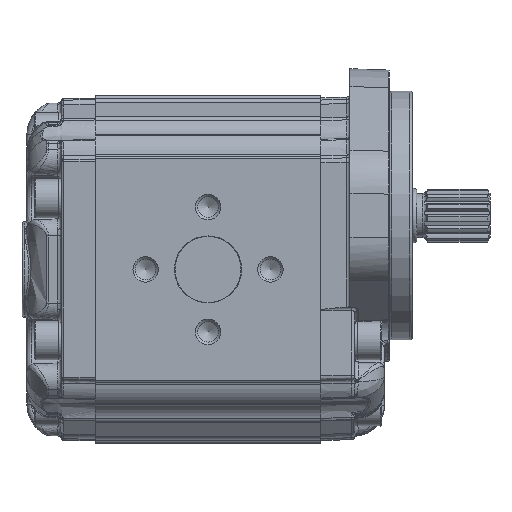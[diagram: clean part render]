
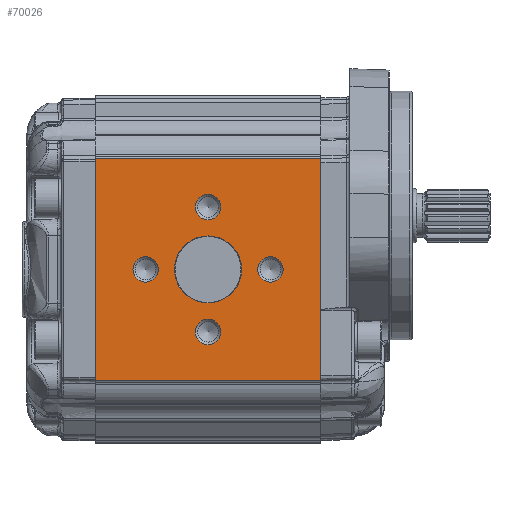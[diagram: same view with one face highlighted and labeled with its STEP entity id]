
A CAD part, left-side view. The second image highlights one B-rep face of the part: STEP entity #70026.
In plain terms, the highlighted planar face has unit normal (-1, 0, 0).
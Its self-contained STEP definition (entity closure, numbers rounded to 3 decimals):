
#8111=LINE('',#122511,#10125);
#8122=LINE('',#122596,#10136);
#8160=LINE('',#122704,#10174);
#8161=LINE('',#122705,#10175);
#10125=VECTOR('',#77587,1000.);
#10136=VECTOR('',#77662,1000.);
#10174=VECTOR('',#77788,1000.);
#10175=VECTOR('',#77789,1000.);
#16517=ORIENTED_EDGE('',*,*,#29320,.T.);
#16518=ORIENTED_EDGE('',*,*,#29321,.T.);
#16519=ORIENTED_EDGE('',*,*,#29322,.T.);
#16520=ORIENTED_EDGE('',*,*,#29323,.T.);
#16521=ORIENTED_EDGE('',*,*,#29324,.T.);
#16522=ORIENTED_EDGE('',*,*,#29224,.F.);
#16523=ORIENTED_EDGE('',*,*,#29325,.T.);
#16524=ORIENTED_EDGE('',*,*,#29266,.F.);
#16525=ORIENTED_EDGE('',*,*,#29326,.T.);
#29224=EDGE_CURVE('',#35950,#35951,#8111,.T.);
#29266=EDGE_CURVE('',#35992,#35993,#8122,.T.);
#29320=EDGE_CURVE('',#36014,#36014,#39819,.F.);
#29321=EDGE_CURVE('',#36015,#36015,#39820,.F.);
#29322=EDGE_CURVE('',#36016,#36016,#39821,.F.);
#29323=EDGE_CURVE('',#36017,#36017,#39822,.F.);
#29324=EDGE_CURVE('',#36018,#36018,#39823,.F.);
#29325=EDGE_CURVE('',#35950,#35993,#8160,.F.);
#29326=EDGE_CURVE('',#35992,#35951,#8161,.F.);
#35950=VERTEX_POINT('',#122510);
#35951=VERTEX_POINT('',#122512);
#35992=VERTEX_POINT('',#122595);
#35993=VERTEX_POINT('',#122597);
#36014=VERTEX_POINT('',#122695);
#36015=VERTEX_POINT('',#122697);
#36016=VERTEX_POINT('',#122699);
#36017=VERTEX_POINT('',#122701);
#36018=VERTEX_POINT('',#122703);
#39819=CIRCLE('',#73296,5.188);
#39820=CIRCLE('',#73297,5.188);
#39821=CIRCLE('',#73298,5.188);
#39822=CIRCLE('',#73299,5.188);
#39823=CIRCLE('',#73300,13.7);
#41146=EDGE_LOOP('',(#16517));
#41147=EDGE_LOOP('',(#16518));
#41148=EDGE_LOOP('',(#16519));
#41149=EDGE_LOOP('',(#16520));
#41150=EDGE_LOOP('',(#16521));
#41151=EDGE_LOOP('',(#16522,#16523,#16524,#16525));
#44492=FACE_BOUND('',#41146,.T.);
#44493=FACE_BOUND('',#41147,.T.);
#44494=FACE_BOUND('',#41148,.T.);
#44495=FACE_BOUND('',#41149,.T.);
#44496=FACE_BOUND('',#41150,.T.);
#44497=FACE_BOUND('',#41151,.T.);
#46936=PLANE('',#73295);
#70026=ADVANCED_FACE('',(#44492,#44493,#44494,#44495,#44496,#44497),#46936,
 .T.);
#73295=AXIS2_PLACEMENT_3D('',#122693,#77776,#77777);
#73296=AXIS2_PLACEMENT_3D('',#122694,#77778,#77779);
#73297=AXIS2_PLACEMENT_3D('',#122696,#77780,#77781);
#73298=AXIS2_PLACEMENT_3D('',#122698,#77782,#77783);
#73299=AXIS2_PLACEMENT_3D('',#122700,#77784,#77785);
#73300=AXIS2_PLACEMENT_3D('',#122702,#77786,#77787);
#77587=DIRECTION('',(0.,0.,1.));
#77662=DIRECTION('',(0.,0.,-1.));
#77776=DIRECTION('',(-1.,0.,0.));
#77777=DIRECTION('',(0.,0.,-1.));
#77778=DIRECTION('',(-1.,0.,0.));
#77779=DIRECTION('',(0.,0.,-1.));
#77780=DIRECTION('',(-1.,0.,0.));
#77781=DIRECTION('',(0.,0.,-1.));
#77782=DIRECTION('',(-1.,0.,0.));
#77783=DIRECTION('',(0.,0.,-1.));
#77784=DIRECTION('',(-1.,0.,0.));
#77785=DIRECTION('',(0.,0.,-1.));
#77786=DIRECTION('',(-1.,0.,0.));
#77787=DIRECTION('',(0.,0.,-1.));
#77788=DIRECTION('',(0.,1.,0.));
#77789=DIRECTION('',(0.,-1.,0.));
#122510=CARTESIAN_POINT('',(-57.5,92.,-45.5));
#122511=CARTESIAN_POINT('',(-57.5,92.,-84.819));
#122512=CARTESIAN_POINT('',(-57.5,92.,45.5));
#122595=CARTESIAN_POINT('',(-57.5,0.,45.5));
#122596=CARTESIAN_POINT('',(-57.5,0.,-44.978));
#122597=CARTESIAN_POINT('',(-57.5,0.,-45.5));
#122693=CARTESIAN_POINT('',(-57.5,-138.655,-84.819));
#122694=CARTESIAN_POINT('',(-57.5,46.,25.5));
#122695=CARTESIAN_POINT('',(-57.5,46.,20.312));
#122696=CARTESIAN_POINT('',(-57.5,71.5,0.));
#122697=CARTESIAN_POINT('',(-57.5,71.5,-5.188));
#122698=CARTESIAN_POINT('',(-57.5,46.,-25.5));
#122699=CARTESIAN_POINT('',(-57.5,46.,-30.688));
#122700=CARTESIAN_POINT('',(-57.5,20.5,0.));
#122701=CARTESIAN_POINT('',(-57.5,20.5,-5.188));
#122702=CARTESIAN_POINT('',(-57.5,46.,0.));
#122703=CARTESIAN_POINT('',(-57.5,46.,-13.7));
#122704=CARTESIAN_POINT('',(-57.5,-138.655,-45.5));
#122705=CARTESIAN_POINT('',(-57.5,-138.655,45.5));
